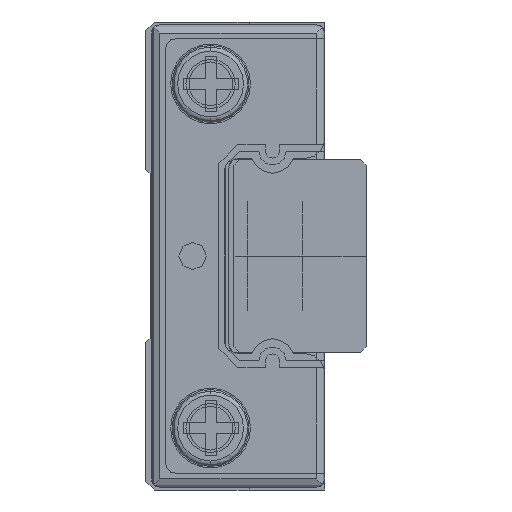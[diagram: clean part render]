
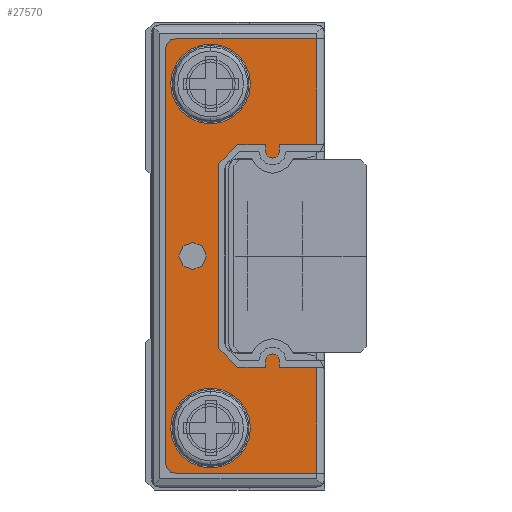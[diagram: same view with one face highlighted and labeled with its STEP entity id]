
A CAD part, left-side view. The second image highlights one B-rep face of the part: STEP entity #27570.
In plain terms, the highlighted planar face has unit normal (-1, 0, 0) as drawn and (0, 0, 1) by its records, which use the part's own axes.
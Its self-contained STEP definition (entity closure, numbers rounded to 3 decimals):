
#14690=DIRECTION('',(1.,0.,0.));
#14691=VECTOR('',#14690,3.849);
#14692=CARTESIAN_POINT('',(-7.899,-6.2,15.75));
#14693=LINE('',#14692,#14691);
#14699=DIRECTION('',(0.,-1.,0.));
#14700=VECTOR('',#14699,5.089);
#14701=CARTESIAN_POINT('',(-7.899,-1.111,15.75));
#14702=LINE('',#14701,#14700);
#17568=DIRECTION('',(0.,-1.,0.));
#17569=VECTOR('',#17568,1.35);
#17570=CARTESIAN_POINT('',(-4.05,-4.85,15.75));
#17571=LINE('',#17570,#17569);
#17572=CARTESIAN_POINT('',(-7.489,-1.111,15.75));
#17573=DIRECTION('',(0.,0.,-1.));
#17574=DIRECTION('',(-1.,0.,0.));
#17575=AXIS2_PLACEMENT_3D('',#17572,#17573,#17574);
#17577=CARTESIAN_POINT('',(7.489,-1.111,15.75));
#17578=DIRECTION('',(0.,0.,-1.));
#17579=DIRECTION('',(0.,1.,0.));
#17580=AXIS2_PLACEMENT_3D('',#17577,#17578,#17579);
#17582=DIRECTION('',(0.,1.,0.));
#17583=VECTOR('',#17582,1.35);
#17584=CARTESIAN_POINT('',(4.05,-6.2,15.75));
#17585=LINE('',#17584,#17583);
#17586=DIRECTION('',(-1.,0.,0.));
#17587=VECTOR('',#17586,0.25);
#17588=CARTESIAN_POINT('',(4.05,-4.85,15.75));
#17589=LINE('',#17588,#17587);
#17590=CARTESIAN_POINT('',(3.8,-4.6,15.75));
#17591=DIRECTION('',(0.,0.,-1.));
#17592=DIRECTION('',(0.,-1.,0.));
#17593=AXIS2_PLACEMENT_3D('',#17590,#17591,#17592);
#17595=CARTESIAN_POINT('',(3.8,-4.6,15.75));
#17596=DIRECTION('',(0.,0.,-1.));
#17597=DIRECTION('',(-1.,0.,0.));
#17598=AXIS2_PLACEMENT_3D('',#17595,#17596,#17597);
#17600=DIRECTION('',(1.,0.,0.));
#17601=VECTOR('',#17600,0.25);
#17602=CARTESIAN_POINT('',(3.8,-4.35,15.75));
#17603=LINE('',#17602,#17601);
#17604=DIRECTION('',(0.,1.,0.));
#17605=VECTOR('',#17604,1.014);
#17606=CARTESIAN_POINT('',(4.05,-4.35,15.75));
#17607=LINE('',#17606,#17605);
#17608=DIRECTION('',(-0.707,0.707,0.));
#17609=VECTOR('',#17608,0.972);
#17610=CARTESIAN_POINT('',(4.05,-3.336,15.75));
#17611=LINE('',#17610,#17609);
#17612=DIRECTION('',(-1.,0.,0.));
#17613=VECTOR('',#17612,6.726);
#17614=CARTESIAN_POINT('',(3.363,-2.649,15.75));
#17615=LINE('',#17614,#17613);
#17616=DIRECTION('',(-0.707,-0.707,0.));
#17617=VECTOR('',#17616,0.972);
#17618=CARTESIAN_POINT('',(-3.363,-2.649,15.75));
#17619=LINE('',#17618,#17617);
#17620=DIRECTION('',(0.,-1.,0.));
#17621=VECTOR('',#17620,1.014);
#17622=CARTESIAN_POINT('',(-4.05,-3.336,15.75));
#17623=LINE('',#17622,#17621);
#17624=DIRECTION('',(1.,0.,0.));
#17625=VECTOR('',#17624,0.25);
#17626=CARTESIAN_POINT('',(-4.05,-4.35,15.75));
#17627=LINE('',#17626,#17625);
#17628=CARTESIAN_POINT('',(-3.8,-4.6,15.75));
#17629=DIRECTION('',(0.,0.,-1.));
#17630=DIRECTION('',(0.,1.,0.));
#17631=AXIS2_PLACEMENT_3D('',#17628,#17629,#17630);
#17633=CARTESIAN_POINT('',(-3.8,-4.6,15.75));
#17634=DIRECTION('',(0.,0.,-1.));
#17635=DIRECTION('',(1.,0.,0.));
#17636=AXIS2_PLACEMENT_3D('',#17633,#17634,#17635);
#17638=DIRECTION('',(-1.,0.,0.));
#17639=VECTOR('',#17638,0.25);
#17640=CARTESIAN_POINT('',(-3.8,-4.85,15.75));
#17641=LINE('',#17640,#17639);
#17642=CARTESIAN_POINT('',(6.25,-2.35,15.75));
#17643=DIRECTION('',(0.,0.,1.));
#17644=DIRECTION('',(-1.,0.,0.));
#17645=AXIS2_PLACEMENT_3D('',#17642,#17643,#17644);
#17647=CARTESIAN_POINT('',(6.25,-2.35,15.75));
#17648=DIRECTION('',(0.,0.,1.));
#17649=DIRECTION('',(1.,0.,0.));
#17650=AXIS2_PLACEMENT_3D('',#17647,#17648,#17649);
#17652=CARTESIAN_POINT('',(-6.25,-2.35,15.75));
#17653=DIRECTION('',(0.,0.,1.));
#17654=DIRECTION('',(-1.,0.,0.));
#17655=AXIS2_PLACEMENT_3D('',#17652,#17653,#17654);
#17657=CARTESIAN_POINT('',(-6.25,-2.35,15.75));
#17658=DIRECTION('',(0.,0.,1.));
#17659=DIRECTION('',(1.,0.,0.));
#17660=AXIS2_PLACEMENT_3D('',#17657,#17658,#17659);
#17662=CARTESIAN_POINT('',(0.,-1.7,15.75));
#17663=DIRECTION('',(0.,0.,1.));
#17664=DIRECTION('',(-1.,0.,0.));
#17665=AXIS2_PLACEMENT_3D('',#17662,#17663,#17664);
#17667=CARTESIAN_POINT('',(0.,-1.7,15.75));
#17668=DIRECTION('',(0.,0.,1.));
#17669=DIRECTION('',(1.,0.,0.));
#17670=AXIS2_PLACEMENT_3D('',#17667,#17668,#17669);
#17704=DIRECTION('',(-1.,0.,0.));
#17705=VECTOR('',#17704,14.978);
#17706=CARTESIAN_POINT('',(7.489,-0.701,15.75));
#17707=LINE('',#17706,#17705);
#17745=DIRECTION('',(0.,1.,0.));
#17746=VECTOR('',#17745,5.089);
#17747=CARTESIAN_POINT('',(7.899,-6.2,15.75));
#17748=LINE('',#17747,#17746);
#17753=DIRECTION('',(1.,0.,0.));
#17754=VECTOR('',#17753,3.849);
#17755=CARTESIAN_POINT('',(4.05,-6.2,15.75));
#17756=LINE('',#17755,#17754);
#22957=CARTESIAN_POINT('',(-4.05,-6.2,15.75));
#22958=VERTEX_POINT('',#22957);
#22959=CARTESIAN_POINT('',(-4.05,-4.85,15.75));
#22960=VERTEX_POINT('',#22959);
#22963=CARTESIAN_POINT('',(-7.899,-6.2,15.75));
#22964=VERTEX_POINT('',#22963);
#22965=CARTESIAN_POINT('',(-7.899,-1.111,15.75));
#22966=VERTEX_POINT('',#22965);
#22967=CARTESIAN_POINT('',(-7.489,-0.701,15.75));
#22968=VERTEX_POINT('',#22967);
#22970=CARTESIAN_POINT('',(7.489,-0.701,15.75));
#22971=VERTEX_POINT('',#22970);
#22972=CARTESIAN_POINT('',(7.899,-1.111,15.75));
#22973=VERTEX_POINT('',#22972);
#22974=CARTESIAN_POINT('',(7.899,-6.2,15.75));
#22975=VERTEX_POINT('',#22974);
#22976=CARTESIAN_POINT('',(4.05,-6.2,15.75));
#22977=VERTEX_POINT('',#22976);
#22978=CARTESIAN_POINT('',(4.05,-4.85,15.75));
#22979=VERTEX_POINT('',#22978);
#22980=CARTESIAN_POINT('',(3.8,-4.85,15.75));
#22981=VERTEX_POINT('',#22980);
#22982=CARTESIAN_POINT('',(3.55,-4.6,15.75));
#22983=VERTEX_POINT('',#22982);
#22984=CARTESIAN_POINT('',(3.8,-4.35,15.75));
#22985=VERTEX_POINT('',#22984);
#22986=CARTESIAN_POINT('',(4.05,-4.35,15.75));
#22987=VERTEX_POINT('',#22986);
#22988=CARTESIAN_POINT('',(4.05,-3.336,15.75));
#22989=VERTEX_POINT('',#22988);
#22990=CARTESIAN_POINT('',(3.363,-2.649,15.75));
#22991=VERTEX_POINT('',#22990);
#22992=CARTESIAN_POINT('',(-3.363,-2.649,15.75));
#22993=VERTEX_POINT('',#22992);
#22994=CARTESIAN_POINT('',(-4.05,-3.336,15.75));
#22995=VERTEX_POINT('',#22994);
#22996=CARTESIAN_POINT('',(-4.05,-4.35,15.75));
#22997=VERTEX_POINT('',#22996);
#22998=CARTESIAN_POINT('',(-3.8,-4.35,15.75));
#22999=VERTEX_POINT('',#22998);
#23000=CARTESIAN_POINT('',(-3.55,-4.6,15.75));
#23001=CARTESIAN_POINT('',(-3.8,-4.85,15.75));
#23002=VERTEX_POINT('',#23000);
#23003=VERTEX_POINT('',#23001);
#23004=CARTESIAN_POINT('',(4.8,-2.35,15.75));
#23005=CARTESIAN_POINT('',(7.7,-2.35,15.75));
#23006=VERTEX_POINT('',#23004);
#23007=VERTEX_POINT('',#23005);
#23008=CARTESIAN_POINT('',(-7.7,-2.35,15.75));
#23009=CARTESIAN_POINT('',(-4.8,-2.35,15.75));
#23010=VERTEX_POINT('',#23008);
#23011=VERTEX_POINT('',#23009);
#23012=CARTESIAN_POINT('',(-0.5,-1.7,15.75));
#23013=CARTESIAN_POINT('',(0.5,-1.7,15.75));
#23014=VERTEX_POINT('',#23012);
#23015=VERTEX_POINT('',#23013);
#27505=CARTESIAN_POINT('',(-7.489,-1.111,15.75));
#27506=DIRECTION('',(0.,0.,1.));
#27507=DIRECTION('',(1.,0.,0.));
#27508=AXIS2_PLACEMENT_3D('',#27505,#27506,#27507);
#27509=PLANE('',#27508);
#27510=ORIENTED_EDGE('',*,*,#24857,.T.);
#27511=ORIENTED_EDGE('',*,*,#24874,.F.);
#27512=ORIENTED_EDGE('',*,*,#24891,.F.);
#27514=ORIENTED_EDGE('',*,*,#27513,.T.);
#27516=ORIENTED_EDGE('',*,*,#27515,.F.);
#27518=ORIENTED_EDGE('',*,*,#27517,.T.);
#27520=ORIENTED_EDGE('',*,*,#27519,.F.);
#27522=ORIENTED_EDGE('',*,*,#27521,.F.);
#27524=ORIENTED_EDGE('',*,*,#27523,.T.);
#27526=ORIENTED_EDGE('',*,*,#27525,.T.);
#27528=ORIENTED_EDGE('',*,*,#27527,.T.);
#27530=ORIENTED_EDGE('',*,*,#27529,.T.);
#27532=ORIENTED_EDGE('',*,*,#27531,.T.);
#27534=ORIENTED_EDGE('',*,*,#27533,.T.);
#27536=ORIENTED_EDGE('',*,*,#27535,.T.);
#27538=ORIENTED_EDGE('',*,*,#27537,.T.);
#27540=ORIENTED_EDGE('',*,*,#27539,.T.);
#27542=ORIENTED_EDGE('',*,*,#27541,.T.);
#27544=ORIENTED_EDGE('',*,*,#27543,.T.);
#27546=ORIENTED_EDGE('',*,*,#27545,.T.);
#27548=ORIENTED_EDGE('',*,*,#27547,.T.);
#27549=ORIENTED_EDGE('',*,*,#27496,.T.);
#27550=EDGE_LOOP('',(#27510,#27511,#27512,#27514,#27516,#27518,#27520,#27522,
#27524,#27526,#27528,#27530,#27532,#27534,#27536,#27538,#27540,#27542,#27544,
#27546,#27548,#27549));
#27551=FACE_OUTER_BOUND('',#27550,.F.);
#27553=ORIENTED_EDGE('',*,*,#27552,.T.);
#27555=ORIENTED_EDGE('',*,*,#27554,.T.);
#27556=EDGE_LOOP('',(#27553,#27555));
#27557=FACE_BOUND('',#27556,.F.);
#27559=ORIENTED_EDGE('',*,*,#27558,.T.);
#27561=ORIENTED_EDGE('',*,*,#27560,.T.);
#27562=EDGE_LOOP('',(#27559,#27561));
#27563=FACE_BOUND('',#27562,.F.);
#27565=ORIENTED_EDGE('',*,*,#27564,.T.);
#27567=ORIENTED_EDGE('',*,*,#27566,.T.);
#27568=EDGE_LOOP('',(#27565,#27567));
#27569=FACE_BOUND('',#27568,.F.);
#27570=ADVANCED_FACE('',(#27551,#27557,#27563,#27569),#27509,.T.);
#17576=CIRCLE('',#17575,0.41);
#17581=CIRCLE('',#17580,0.41);
#17594=CIRCLE('',#17593,0.25);
#17599=CIRCLE('',#17598,0.25);
#17632=CIRCLE('',#17631,0.25);
#17637=CIRCLE('',#17636,0.25);
#17646=CIRCLE('',#17645,1.45);
#17651=CIRCLE('',#17650,1.45);
#17656=CIRCLE('',#17655,1.45);
#17661=CIRCLE('',#17660,1.45);
#17666=CIRCLE('',#17665,0.5);
#17671=CIRCLE('',#17670,0.5);
#24857=EDGE_CURVE('',#22960,#22958,#17571,.T.);
#24874=EDGE_CURVE('',#22964,#22958,#14693,.T.);
#24891=EDGE_CURVE('',#22966,#22964,#14702,.T.);
#27496=EDGE_CURVE('',#23003,#22960,#17641,.T.);
#27513=EDGE_CURVE('',#22966,#22968,#17576,.T.);
#27515=EDGE_CURVE('',#22971,#22968,#17707,.T.);
#27517=EDGE_CURVE('',#22971,#22973,#17581,.T.);
#27519=EDGE_CURVE('',#22975,#22973,#17748,.T.);
#27521=EDGE_CURVE('',#22977,#22975,#17756,.T.);
#27523=EDGE_CURVE('',#22977,#22979,#17585,.T.);
#27525=EDGE_CURVE('',#22979,#22981,#17589,.T.);
#27527=EDGE_CURVE('',#22981,#22983,#17594,.T.);
#27529=EDGE_CURVE('',#22983,#22985,#17599,.T.);
#27531=EDGE_CURVE('',#22985,#22987,#17603,.T.);
#27533=EDGE_CURVE('',#22987,#22989,#17607,.T.);
#27535=EDGE_CURVE('',#22989,#22991,#17611,.T.);
#27537=EDGE_CURVE('',#22991,#22993,#17615,.T.);
#27539=EDGE_CURVE('',#22993,#22995,#17619,.T.);
#27541=EDGE_CURVE('',#22995,#22997,#17623,.T.);
#27543=EDGE_CURVE('',#22997,#22999,#17627,.T.);
#27545=EDGE_CURVE('',#22999,#23002,#17632,.T.);
#27547=EDGE_CURVE('',#23002,#23003,#17637,.T.);
#27552=EDGE_CURVE('',#23006,#23007,#17646,.T.);
#27554=EDGE_CURVE('',#23007,#23006,#17651,.T.);
#27558=EDGE_CURVE('',#23010,#23011,#17656,.T.);
#27560=EDGE_CURVE('',#23011,#23010,#17661,.T.);
#27564=EDGE_CURVE('',#23014,#23015,#17666,.T.);
#27566=EDGE_CURVE('',#23015,#23014,#17671,.T.);
